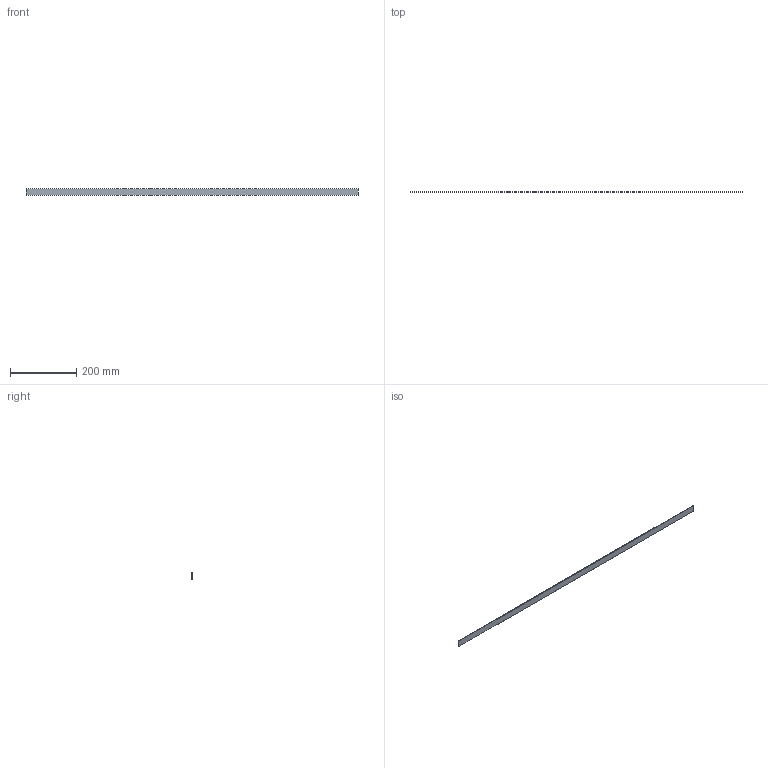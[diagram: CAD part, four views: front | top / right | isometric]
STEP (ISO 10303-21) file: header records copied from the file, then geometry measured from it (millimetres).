
FILE_DESCRIPTION (( 'STEP AP214' ), '1' );
FILE_NAME ('EBSP-2-20.STEP', '2016-01-28T11:43:09', ( '' ), ( '' ), 'SwSTEP 2.0', 'SolidWorks 2012', '' );
FILE_SCHEMA (( 'AUTOMOTIVE_DESIGN' ));
Length unit declared in the file: millimetre
Products named in the file (1): EBSP-2-20
Bounding box: 1000 x 2.2 x 20 mm (x, y, z)
Volume: 44000 mm3; surface area: 84488 mm2
Topology: 2 solids, 2 shells, 12 faces, 24 edges, 16 vertices
Faces by surface type: plane 12
Entity records: 351 total; most frequent: CARTESIAN_POINT 53, DIRECTION 50, ORIENTED_EDGE 48, VECTOR 24, LINE 24, EDGE_CURVE 24, VERTEX_POINT 16, AXIS2_PLACEMENT_3D 13
